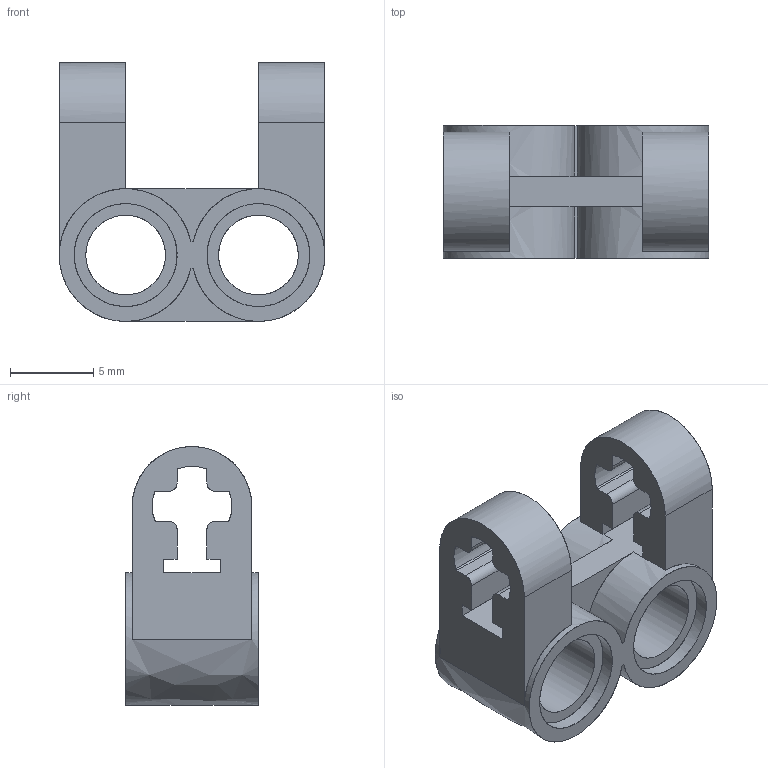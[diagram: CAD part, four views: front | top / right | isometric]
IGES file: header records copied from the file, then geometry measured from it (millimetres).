
Start section: C
Global section: file name: ClGray_4211889_MCM.iges; native system: By Siemens PLM Incorporated; preprocessor: XPlus GENERIC/IGES 26.1.183; author: Author; organization: Title; date: 20250721.235419; units: millimetre
Bounding box: 16 x 8 x 15.6 mm (x, y, z)
Surface area: 1229.5 mm2 (no closed solid volume)
Topology: 0 solids, 0 shells, 88 faces, 520 edges, 520 vertices
Faces by surface type: bspline 88
